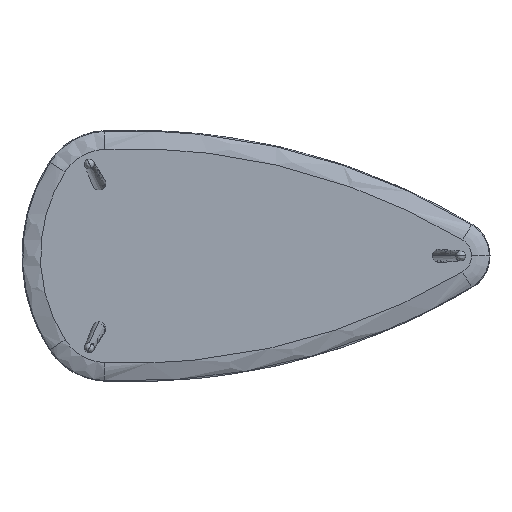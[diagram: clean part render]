
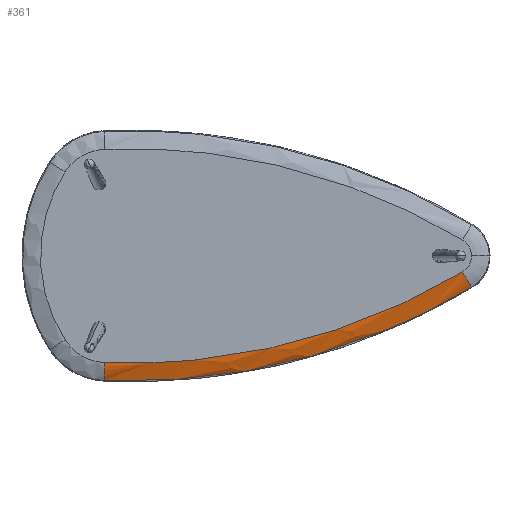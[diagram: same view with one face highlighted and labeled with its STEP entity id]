
A CAD part, front view. The second image highlights one B-rep face of the part: STEP entity #361.
In plain terms, the highlighted free-form (B-spline) face has degree [3, 3] with [4, 4] control points.
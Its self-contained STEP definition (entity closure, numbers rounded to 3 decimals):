
#106 = EDGE_CURVE ( 'NONE', #2728, #1221, #372, .T. ) ;
#312 = CARTESIAN_POINT ( 'NONE',  ( -988.094, 358., -290.028 ) ) ;
#361 = ADVANCED_FACE ( 'NONE', ( #2176 ), #3214, .F. ) ;
#372 =( BOUNDED_CURVE ( )  B_SPLINE_CURVE ( 3, ( #846, #1131, #2763, #813 ),
 .UNSPECIFIED., .F., .T. ) 
 B_SPLINE_CURVE_WITH_KNOTS ( ( 4, 4 ),
 ( 0., 1. ),
 .UNSPECIFIED. ) 
 CURVE ( )  GEOMETRIC_REPRESENTATION_ITEM ( )  RATIONAL_B_SPLINE_CURVE ( ( 1., 0.972, 0.972, 1. ) ) 
 REPRESENTATION_ITEM ( '' )  );
#385 = ORIENTED_EDGE ( 'NONE', *, *, #1216, .T. ) ;
#471 = CARTESIAN_POINT ( 'NONE',  ( -988.757, 362.952, -305.761 ) ) ;
#557 = CARTESIAN_POINT ( 'NONE',  ( -988.757, 362.952, -305.761 ) ) ;
#670 = CARTESIAN_POINT ( 'NONE',  ( -47.08, 372.4, -80.042 ) ) ;
#726 = CARTESIAN_POINT ( 'NONE',  ( -987.398, 358., -273.535 ) ) ;
#813 = CARTESIAN_POINT ( 'NONE',  ( -987.398, 358., -273.535 ) ) ;
#822 = CARTESIAN_POINT ( 'NONE',  ( -658.333, 362.952, -319.696 ) ) ;
#836 = CARTESIAN_POINT ( 'NONE',  ( -348.911, 358., -207.376 ) ) ;
#846 = CARTESIAN_POINT ( 'NONE',  ( -70.601, 358., -40.755 ) ) ;
#868 = CARTESIAN_POINT ( 'NONE',  ( -656.244, 372.4, -333.332 ) ) ;
#940 = VERTEX_POINT ( 'NONE', #2357 ) ;
#946 = CARTESIAN_POINT ( 'NONE',  ( -70.601, 358., -40.755 ) ) ;
#1131 = CARTESIAN_POINT ( 'NONE',  ( -348.911, 358., -207.376 ) ) ;
#1216 = EDGE_CURVE ( 'NONE', #940, #2728, #2259, .T. ) ;
#1221 = VERTEX_POINT ( 'NONE', #2057 ) ;
#1264 = ORIENTED_EDGE ( 'NONE', *, *, #106, .T. ) ;
#1272 = CARTESIAN_POINT ( 'NONE',  ( -989.328, 372.4, -319.284 ) ) ;
#1333 = ORIENTED_EDGE ( 'NONE', *, *, #2824, .T. ) ;
#1400 = VERTEX_POINT ( 'NONE', #1643 ) ;
#1448 = EDGE_LOOP ( 'NONE', ( #1702, #1333, #385, #1264 ) ) ;
#1595 =( BOUNDED_CURVE ( )  B_SPLINE_CURVE ( 3, ( #1272, #1601, #2170, #3488 ),
 .UNSPECIFIED., .F., .T. ) 
 B_SPLINE_CURVE_WITH_KNOTS ( ( 4, 4 ),
 ( 0., 1. ),
 .UNSPECIFIED. ) 
 CURVE ( )  GEOMETRIC_REPRESENTATION_ITEM ( )  RATIONAL_B_SPLINE_CURVE ( ( 1., 0.972, 0.972, 1. ) ) 
 REPRESENTATION_ITEM ( '' )  );
#1601 = CARTESIAN_POINT ( 'NONE',  ( -656.244, 372.4, -333.332 ) ) ;
#1643 = CARTESIAN_POINT ( 'NONE',  ( -989.328, 372.4, -319.284 ) ) ;
#1661 = CARTESIAN_POINT ( 'NONE',  ( -337.786, 362.952, -238.307 ) ) ;
#1682 = EDGE_CURVE ( 'NONE', #1400, #1221, #1968, .T. ) ;
#1689 = CARTESIAN_POINT ( 'NONE',  ( -989.328, 372.4, -319.284 ) ) ;
#1702 = ORIENTED_EDGE ( 'NONE', *, *, #1682, .F. ) ;
#1968 =( BOUNDED_CURVE ( )  B_SPLINE_CURVE ( 3, ( #2443, #471, #2387, #726 ),
 .UNSPECIFIED., .F., .T. ) 
 B_SPLINE_CURVE_WITH_KNOTS ( ( 4, 4 ),
 ( 0., 1. ),
 .UNSPECIFIED. ) 
 CURVE ( )  GEOMETRIC_REPRESENTATION_ITEM ( )  RATIONAL_B_SPLINE_CURVE ( ( 1., 0.969, 0.969, 1. ) ) 
 REPRESENTATION_ITEM ( '' )  );
#2057 = CARTESIAN_POINT ( 'NONE',  ( -987.398, 358., -273.535 ) ) ;
#2170 = CARTESIAN_POINT ( 'NONE',  ( -333.117, 372.4, -251.288 ) ) ;
#2176 = FACE_OUTER_BOUND ( 'NONE', #1448, .T. ) ;
#2259 =( BOUNDED_CURVE ( )  B_SPLINE_CURVE ( 3, ( #670, #2559, #3435, #3175 ),
 .UNSPECIFIED., .F., .T. ) 
 B_SPLINE_CURVE_WITH_KNOTS ( ( 4, 4 ),
 ( 0., 1. ),
 .UNSPECIFIED. ) 
 CURVE ( )  GEOMETRIC_REPRESENTATION_ITEM ( )  RATIONAL_B_SPLINE_CURVE ( ( 1., 0.969, 0.969, 1. ) ) 
 REPRESENTATION_ITEM ( '' )  );
#2270 = CARTESIAN_POINT ( 'NONE',  ( -47.08, 372.4, -80.042 ) ) ;
#2357 = CARTESIAN_POINT ( 'NONE',  ( -47.08, 372.4, -80.042 ) ) ;
#2387 = CARTESIAN_POINT ( 'NONE',  ( -988.094, 358., -290.028 ) ) ;
#2443 = CARTESIAN_POINT ( 'NONE',  ( -989.328, 372.4, -319.284 ) ) ;
#2559 = CARTESIAN_POINT ( 'NONE',  ( -54.033, 362.952, -68.428 ) ) ;
#2728 = VERTEX_POINT ( 'NONE', #946 ) ;
#2763 = CARTESIAN_POINT ( 'NONE',  ( -663.311, 358., -287.204 ) ) ;
#2824 = EDGE_CURVE ( 'NONE', #1400, #940, #1595, .T. ) ;
#2829 = CARTESIAN_POINT ( 'NONE',  ( -663.311, 358., -287.204 ) ) ;
#3028 = CARTESIAN_POINT ( 'NONE',  ( -660.763, 358., -303.833 ) ) ;
#3048 = CARTESIAN_POINT ( 'NONE',  ( -62.122, 358., -54.918 ) ) ;
#3060 = CARTESIAN_POINT ( 'NONE',  ( -70.601, 358., -40.755 ) ) ;
#3074 = CARTESIAN_POINT ( 'NONE',  ( -343.218, 358., -223.206 ) ) ;
#3095 = CARTESIAN_POINT ( 'NONE',  ( -333.117, 372.4, -251.288 ) ) ;
#3175 = CARTESIAN_POINT ( 'NONE',  ( -70.601, 358., -40.755 ) ) ;
#3214 =( BOUNDED_SURFACE ( )  B_SPLINE_SURFACE ( 3, 3, ( 
 ( #1689, #868, #3095, #2270 ),
 ( #557, #822, #1661, #3288 ),
 ( #312, #3028, #3074, #3048 ),
 ( #3309, #2829, #836, #3060 ) ),
 .UNSPECIFIED., .F., .F., .T. ) 
 B_SPLINE_SURFACE_WITH_KNOTS ( ( 4, 4 ),
 ( 4, 4 ),
 ( 0., 1. ),
 ( 0., 1. ),
 .UNSPECIFIED. ) 
 GEOMETRIC_REPRESENTATION_ITEM ( )  RATIONAL_B_SPLINE_SURFACE ( (
 ( 1., 0.972, 0.972, 1.),
 ( 0.969, 0.942, 0.942, 0.969),
 ( 0.969, 0.942, 0.942, 0.969),
 ( 1., 0.972, 0.972, 1.) ) ) 
 REPRESENTATION_ITEM ( '' )  SURFACE ( )  );
#3288 = CARTESIAN_POINT ( 'NONE',  ( -54.033, 362.952, -68.428 ) ) ;
#3309 = CARTESIAN_POINT ( 'NONE',  ( -987.398, 358., -273.535 ) ) ;
#3435 = CARTESIAN_POINT ( 'NONE',  ( -62.122, 358., -54.918 ) ) ;
#3488 = CARTESIAN_POINT ( 'NONE',  ( -47.08, 372.4, -80.042 ) ) ;
